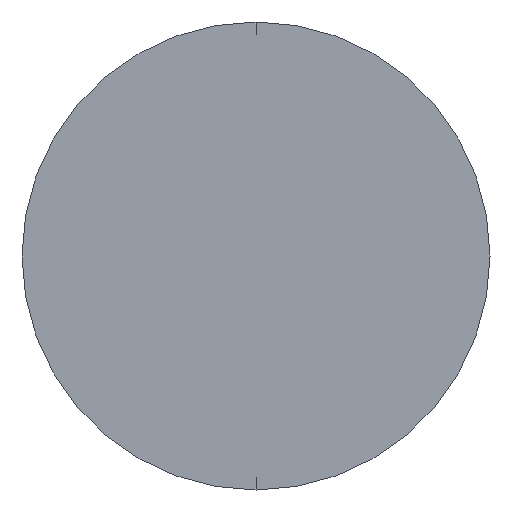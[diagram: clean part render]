
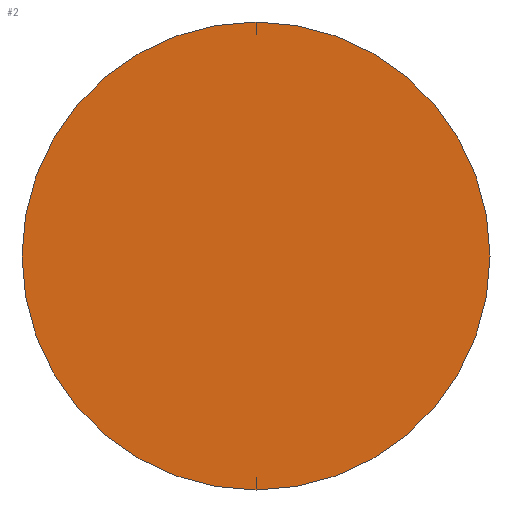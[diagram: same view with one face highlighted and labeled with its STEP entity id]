
A CAD part, left-side view. The second image highlights one B-rep face of the part: STEP entity #2.
In plain terms, the highlighted planar face has unit normal (-1, 0, 0).
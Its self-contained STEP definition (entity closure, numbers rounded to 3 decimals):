
#2 = ADVANCED_FACE ( 'NONE', ( #66 ), #58, .F. ) ;
#17 = ORIENTED_EDGE ( 'NONE', *, *, #21, .T. ) ;
#21 = EDGE_CURVE ( 'NONE', #69, #258, #234, .T. ) ;
#23 = DIRECTION ( 'NONE',  ( 0., 0., 1. ) ) ;
#29 = AXIS2_PLACEMENT_3D ( 'NONE', #107, #239, #23 ) ;
#49 = ORIENTED_EDGE ( 'NONE', *, *, #208, .T. ) ;
#58 = PLANE ( 'NONE',  #252 ) ;
#66 = FACE_OUTER_BOUND ( 'NONE', #182, .T. ) ;
#69 = VERTEX_POINT ( 'NONE', #139 ) ;
#102 = AXIS2_PLACEMENT_3D ( 'NONE', #189, #170, #163 ) ;
#104 = DIRECTION ( 'NONE',  ( 1., 0., 0. ) ) ;
#107 = CARTESIAN_POINT ( 'NONE',  ( 0., 0., 0. ) ) ;
#125 = CIRCLE ( 'NONE', #29, 1.5 ) ;
#139 = CARTESIAN_POINT ( 'NONE',  ( 0., 0., 1.5 ) ) ;
#163 = DIRECTION ( 'NONE',  ( 0., 0., 1. ) ) ;
#170 = DIRECTION ( 'NONE',  ( -1., 0., 0. ) ) ;
#173 = CARTESIAN_POINT ( 'NONE',  ( 0., 0., -1.5 ) ) ;
#182 = EDGE_LOOP ( 'NONE', ( #17, #49 ) ) ;
#189 = CARTESIAN_POINT ( 'NONE',  ( 0., 0., 0. ) ) ;
#208 = EDGE_CURVE ( 'NONE', #258, #69, #125, .T. ) ;
#234 = CIRCLE ( 'NONE', #102, 1.5 ) ;
#239 = DIRECTION ( 'NONE',  ( -1., 0., 0. ) ) ;
#243 = CARTESIAN_POINT ( 'NONE',  ( 0., 0., 0. ) ) ;
#244 = DIRECTION ( 'NONE',  ( 0., 0., -1. ) ) ;
#252 = AXIS2_PLACEMENT_3D ( 'NONE', #243, #104, #244 ) ;
#258 = VERTEX_POINT ( 'NONE', #173 ) ;
